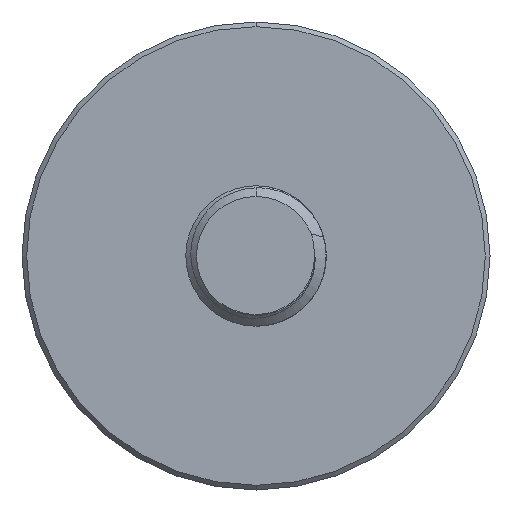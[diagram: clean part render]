
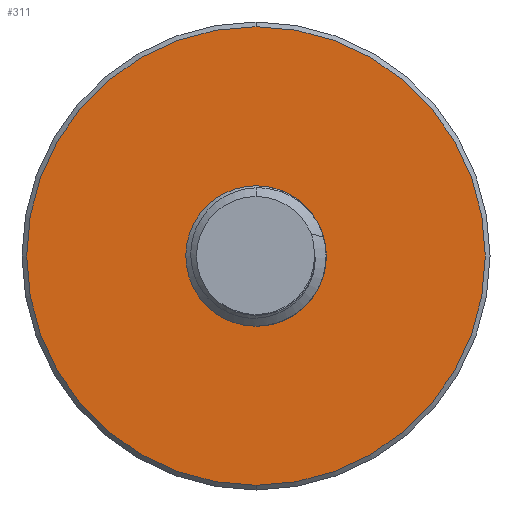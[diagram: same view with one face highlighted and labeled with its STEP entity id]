
A CAD part, front view. The second image highlights one B-rep face of the part: STEP entity #311.
In plain terms, the highlighted planar face has unit normal (0, -1, 0).
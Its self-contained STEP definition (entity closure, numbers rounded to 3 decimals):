
#17 = DIRECTION ( 'NONE',  ( 0., -1., 0. ) ) ;
#305 = DIRECTION ( 'NONE',  ( 0., 0., -1. ) ) ;
#311 = ADVANCED_FACE ( 'NONE', ( #1531, #4528 ), #1113, .T. ) ;
#620 = CARTESIAN_POINT ( 'NONE',  ( 0., -8., 0. ) ) ;
#779 = CIRCLE ( 'NONE', #3881, 1.25 ) ;
#938 = CARTESIAN_POINT ( 'NONE',  ( 0., -8., -4.9 ) ) ;
#1098 = EDGE_CURVE ( 'NONE', #3144, #1861, #779, .T. ) ;
#1113 = PLANE ( 'NONE',  #5193 ) ;
#1122 = CARTESIAN_POINT ( 'NONE',  ( 0., -8., 1.25 ) ) ;
#1367 = ORIENTED_EDGE ( 'NONE', *, *, #1646, .T. ) ;
#1408 = CIRCLE ( 'NONE', #3988, 1.25 ) ;
#1531 = FACE_OUTER_BOUND ( 'NONE', #2062, .T. ) ;
#1561 = DIRECTION ( 'NONE',  ( 0., -1., 0. ) ) ;
#1646 = EDGE_CURVE ( 'NONE', #4504, #3085, #3239, .T. ) ;
#1711 = EDGE_CURVE ( 'NONE', #3085, #4504, #4662, .T. ) ;
#1722 = DIRECTION ( 'NONE',  ( 0., 0., -1. ) ) ;
#1777 = ORIENTED_EDGE ( 'NONE', *, *, #1098, .F. ) ;
#1861 = VERTEX_POINT ( 'NONE', #5362 ) ;
#1922 = DIRECTION ( 'NONE',  ( 0., 0., -1. ) ) ;
#2062 = EDGE_LOOP ( 'NONE', ( #2176, #1367 ) ) ;
#2176 = ORIENTED_EDGE ( 'NONE', *, *, #1711, .T. ) ;
#2317 = DIRECTION ( 'NONE',  ( 0., -1., 0. ) ) ;
#2394 = EDGE_CURVE ( 'NONE', #1861, #3144, #1408, .T. ) ;
#2427 = CARTESIAN_POINT ( 'NONE',  ( 0., -8., 0. ) ) ;
#2906 = DIRECTION ( 'NONE',  ( 0., -1., 0. ) ) ;
#3085 = VERTEX_POINT ( 'NONE', #4894 ) ;
#3144 = VERTEX_POINT ( 'NONE', #1122 ) ;
#3239 = CIRCLE ( 'NONE', #5376, 4.9 ) ;
#3748 = CARTESIAN_POINT ( 'NONE',  ( 0., -8., 0. ) ) ;
#3830 = CARTESIAN_POINT ( 'NONE',  ( 0., -8., 0. ) ) ;
#3881 = AXIS2_PLACEMENT_3D ( 'NONE', #3830, #17, #1722 ) ;
#3936 = AXIS2_PLACEMENT_3D ( 'NONE', #3748, #4038, #1922 ) ;
#3988 = AXIS2_PLACEMENT_3D ( 'NONE', #2427, #2906, #305 ) ;
#4038 = DIRECTION ( 'NONE',  ( 0., -1., 0. ) ) ;
#4504 = VERTEX_POINT ( 'NONE', #938 ) ;
#4528 = FACE_BOUND ( 'NONE', #5183, .T. ) ;
#4557 = CARTESIAN_POINT ( 'NONE',  ( -5., -8., 0. ) ) ;
#4662 = CIRCLE ( 'NONE', #3936, 4.9 ) ;
#4894 = CARTESIAN_POINT ( 'NONE',  ( 0., -8., 4.9 ) ) ;
#5183 = EDGE_LOOP ( 'NONE', ( #5475, #1777 ) ) ;
#5193 = AXIS2_PLACEMENT_3D ( 'NONE', #4557, #1561, #5524 ) ;
#5224 = DIRECTION ( 'NONE',  ( 0., 0., -1. ) ) ;
#5362 = CARTESIAN_POINT ( 'NONE',  ( 0., -8., -1.25 ) ) ;
#5376 = AXIS2_PLACEMENT_3D ( 'NONE', #620, #2317, #5224 ) ;
#5475 = ORIENTED_EDGE ( 'NONE', *, *, #2394, .F. ) ;
#5524 = DIRECTION ( 'NONE',  ( 0., 0., -1. ) ) ;
